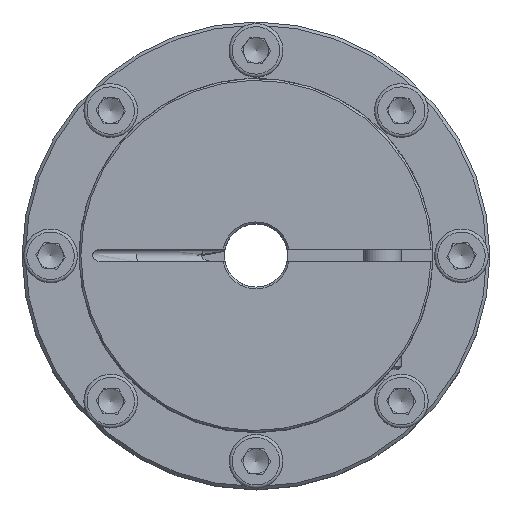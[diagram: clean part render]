
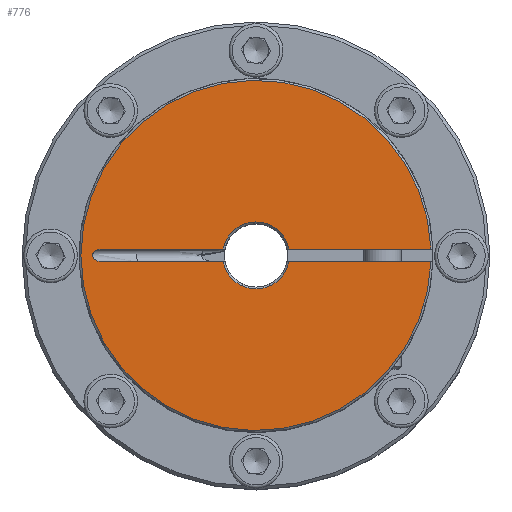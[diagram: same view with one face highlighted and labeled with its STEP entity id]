
A CAD part, top view. The second image highlights one B-rep face of the part: STEP entity #776.
In plain terms, the highlighted planar face has unit normal (0, 0, 1).
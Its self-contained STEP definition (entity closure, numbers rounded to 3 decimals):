
#776 = ADVANCED_FACE( 'NONE', ( #1560 ), #1561, .T. );
#1560 = FACE_OUTER_BOUND( '', #2312, .T. );
#1561 = PLANE( '', #2313 );
#2312 = EDGE_LOOP( '', ( #3525, #3526, #3527, #3528, #3529, #3530, #3531, #3532 ) );
#2313 = AXIS2_PLACEMENT_3D( '', #3533, #3534, #3535 );
#3525 = ORIENTED_EDGE( '', *, *, #3768, .F. );
#3526 = ORIENTED_EDGE( '', *, *, #4202, .T. );
#3527 = ORIENTED_EDGE( '', *, *, #4203, .T. );
#3528 = ORIENTED_EDGE( '', *, *, #3980, .T. );
#3529 = ORIENTED_EDGE( '', *, *, #3919, .T. );
#3530 = ORIENTED_EDGE( '', *, *, #4140, .T. );
#3531 = ORIENTED_EDGE( '', *, *, #4010, .F. );
#3532 = ORIENTED_EDGE( '', *, *, #4105, .T. );
#3533 = CARTESIAN_POINT( '', ( 0., 0., 21. ) );
#3534 = DIRECTION( '', ( 0., 0., 1. ) );
#3535 = DIRECTION( '', ( 1., 0., 0. ) );
#3768 = EDGE_CURVE( 'NONE', #4253, #4255, #4256, .F. );
#3919 = EDGE_CURVE( 'NONE', #4510, #4508, #4511, .T. );
#3980 = EDGE_CURVE( 'NONE', #4603, #4510, #4604, .F. );
#4010 = EDGE_CURVE( 'NONE', #4650, #4651, #4652, .F. );
#4105 = EDGE_CURVE( 'NONE', #4650, #4255, #4790, .F. );
#4140 = EDGE_CURVE( 'NONE', #4508, #4651, #4831, .T. );
#4202 = EDGE_CURVE( 'NONE', #4253, #4907, #4908, .T. );
#4203 = EDGE_CURVE( 'NONE', #4907, #4603, #4909, .T. );
#4253 = VERTEX_POINT( 'NONE', #4958 );
#4255 = VERTEX_POINT( 'NONE', #4963 );
#4256 = LINE( '', #4964, #4965 );
#4508 = VERTEX_POINT( 'NONE', #5344 );
#4510 = VERTEX_POINT( 'NONE', #5346 );
#4511 = LINE( '', #5347, #5348 );
#4603 = VERTEX_POINT( 'NONE', #5486 );
#4604 = CIRCLE( '', #5487, 5.3 );
#4650 = VERTEX_POINT( 'NONE', #5548 );
#4651 = VERTEX_POINT( 'NONE', #5549 );
#4652 = LINE( '', #5550, #5551 );
#4790 = CIRCLE( '', #5804, 5.3 );
#4831 = B_SPLINE_CURVE_WITH_KNOTS( '', 3, ( #5861, #5862, #5863, #5864, #5865, #5866, #5867, #5868, #5869, #5870, #5871, #5872, #5873, #5874, #5875, #5876, #5877, #5878 ), .UNSPECIFIED., .F., .F., ( 4, 2, 2, 2, 2, 2, 2, 2, 4 ), ( 0., 0., 0.001, 0.001, 0.002, 0.002, 0.003, 0.003, 0.004 ), .UNSPECIFIED. );
#4907 = VERTEX_POINT( 'NONE', #5962 );
#4908 = CIRCLE( '', #5963, 27.7 );
#4909 = LINE( '', #5964, #5965 );
#4958 = CARTESIAN_POINT( '', ( 27.682, 1., 21. ) );
#4963 = CARTESIAN_POINT( '', ( 5.205, 1., 21. ) );
#4964 = CARTESIAN_POINT( '', ( 17., 1., 21. ) );
#4965 = VECTOR( '', #6016, 1000. );
#5344 = CARTESIAN_POINT( '', ( -24.376, -1., 21. ) );
#5346 = CARTESIAN_POINT( '', ( -5.205, -1., 21. ) );
#5347 = CARTESIAN_POINT( '', ( 0., -1., 21. ) );
#5348 = VECTOR( '', #6281, 1000. );
#5486 = CARTESIAN_POINT( '', ( 5.205, -1., 21. ) );
#5487 = AXIS2_PLACEMENT_3D( '', #6345, #6346, #6347 );
#5548 = CARTESIAN_POINT( '', ( -5.205, 1., 21. ) );
#5549 = CARTESIAN_POINT( '', ( -24.376, 1., 21. ) );
#5550 = CARTESIAN_POINT( '', ( 17., 1., 21. ) );
#5551 = VECTOR( '', #6396, 1000. );
#5804 = AXIS2_PLACEMENT_3D( '', #6534, #6535, #6536 );
#5861 = CARTESIAN_POINT( '', ( -24.376, -1., 21. ) );
#5862 = CARTESIAN_POINT( '', ( -24.54, -1., 21. ) );
#5863 = CARTESIAN_POINT( '', ( -24.701, -0.982, 21. ) );
#5864 = CARTESIAN_POINT( '', ( -25.017, -0.909, 21. ) );
#5865 = CARTESIAN_POINT( '', ( -25.173, -0.852, 21. ) );
#5866 = CARTESIAN_POINT( '', ( -25.457, -0.692, 21. ) );
#5867 = CARTESIAN_POINT( '', ( -25.588, -0.588, 21. ) );
#5868 = CARTESIAN_POINT( '', ( -25.786, -0.326, 21. ) );
#5869 = CARTESIAN_POINT( '', ( -25.848, -0.166, 21. ) );
#5870 = CARTESIAN_POINT( '', ( -25.849, 0.165, 21. ) );
#5871 = CARTESIAN_POINT( '', ( -25.787, 0.324, 21. ) );
#5872 = CARTESIAN_POINT( '', ( -25.59, 0.587, 21. ) );
#5873 = CARTESIAN_POINT( '', ( -25.459, 0.691, 21. ) );
#5874 = CARTESIAN_POINT( '', ( -25.175, 0.851, 21. ) );
#5875 = CARTESIAN_POINT( '', ( -25.021, 0.907, 21. ) );
#5876 = CARTESIAN_POINT( '', ( -24.702, 0.982, 21. ) );
#5877 = CARTESIAN_POINT( '', ( -24.54, 1., 21. ) );
#5878 = CARTESIAN_POINT( '', ( -24.376, 1., 21. ) );
#5962 = CARTESIAN_POINT( '', ( 27.682, -1., 21. ) );
#5963 = AXIS2_PLACEMENT_3D( '', #6625, #6626, #6627 );
#5964 = CARTESIAN_POINT( '', ( 0., -1., 21. ) );
#5965 = VECTOR( '', #6628, 1000. );
#6016 = DIRECTION( '', ( 1., 0., 0. ) );
#6281 = DIRECTION( '', ( -1., 0., 0. ) );
#6345 = CARTESIAN_POINT( '', ( 0., 0., 21. ) );
#6346 = DIRECTION( '', ( 0., 0., 1. ) );
#6347 = DIRECTION( '', ( 1., 0., 0. ) );
#6396 = DIRECTION( '', ( 1., 0., 0. ) );
#6534 = CARTESIAN_POINT( '', ( 0., 0., 21. ) );
#6535 = DIRECTION( '', ( 0., 0., 1. ) );
#6536 = DIRECTION( '', ( 1., 0., 0. ) );
#6625 = CARTESIAN_POINT( '', ( 0., 0., 21. ) );
#6626 = DIRECTION( '', ( 0., 0., 1. ) );
#6627 = DIRECTION( '', ( 1., 0., 0. ) );
#6628 = DIRECTION( '', ( -1., 0., 0. ) );
